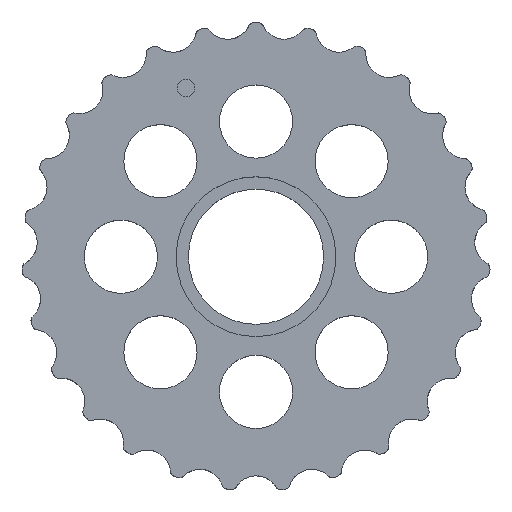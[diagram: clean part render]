
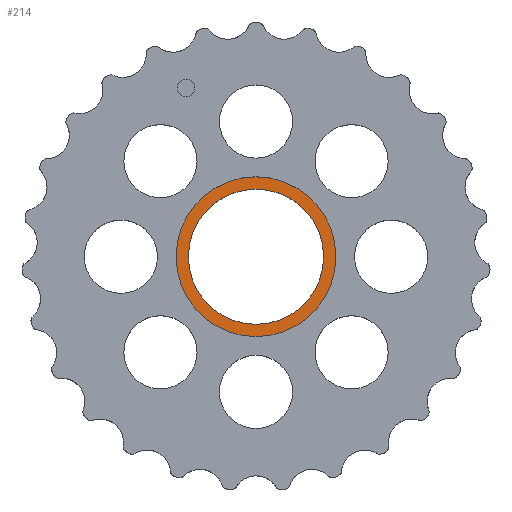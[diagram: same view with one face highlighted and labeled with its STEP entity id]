
A CAD part, top view. The second image highlights one B-rep face of the part: STEP entity #214.
In plain terms, the highlighted planar face has unit normal (0, 0, 1).
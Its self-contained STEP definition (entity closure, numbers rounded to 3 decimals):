
#25 = ORIENTED_EDGE ( 'NONE', *, *, #3132, .F. ) ;
#135 = CARTESIAN_POINT ( 'NONE',  ( 1.344, -27.649, 4.45 ) ) ;
#214 = ADVANCED_FACE ( 'NONE', ( #1508, #956 ), #1575, .T. ) ;
#415 = DIRECTION ( 'NONE',  ( 0., 0., 1. ) ) ;
#487 = VERTEX_POINT ( 'NONE', #1843 ) ;
#692 = DIRECTION ( 'NONE',  ( 1., 0., 0. ) ) ;
#711 = CIRCLE ( 'NONE', #3518, 13.6 ) ;
#730 = CARTESIAN_POINT ( 'NONE',  ( 14.944, -27.649, 4.45 ) ) ;
#777 = DIRECTION ( 'NONE',  ( 1., 0., 0. ) ) ;
#956 = FACE_OUTER_BOUND ( 'NONE', #1133, .T. ) ;
#1000 = CIRCLE ( 'NONE', #1799, 11.5 ) ;
#1067 = VERTEX_POINT ( 'NONE', #3419 ) ;
#1133 = EDGE_LOOP ( 'NONE', ( #3811, #2019 ) ) ;
#1257 = AXIS2_PLACEMENT_3D ( 'NONE', #3870, #1737, #3824 ) ;
#1508 = FACE_BOUND ( 'NONE', #2161, .T. ) ;
#1575 = PLANE ( 'NONE',  #2453 ) ;
#1584 = DIRECTION ( 'NONE',  ( 1., 0., 0. ) ) ;
#1737 = DIRECTION ( 'NONE',  ( 0., 0., 1. ) ) ;
#1750 = ORIENTED_EDGE ( 'NONE', *, *, #2975, .F. ) ;
#1799 = AXIS2_PLACEMENT_3D ( 'NONE', #3941, #2426, #2752 ) ;
#1843 = CARTESIAN_POINT ( 'NONE',  ( -12.256, -27.649, 4.45 ) ) ;
#2019 = ORIENTED_EDGE ( 'NONE', *, *, #3359, .T. ) ;
#2161 = EDGE_LOOP ( 'NONE', ( #1750, #25 ) ) ;
#2294 = AXIS2_PLACEMENT_3D ( 'NONE', #135, #415, #692 ) ;
#2323 = CARTESIAN_POINT ( 'NONE',  ( 1.344, -27.649, 4.45 ) ) ;
#2395 = VERTEX_POINT ( 'NONE', #730 ) ;
#2426 = DIRECTION ( 'NONE',  ( 0., 0., 1. ) ) ;
#2453 = AXIS2_PLACEMENT_3D ( 'NONE', #2827, #2517, #1584 ) ;
#2517 = DIRECTION ( 'NONE',  ( 0., 0., 1. ) ) ;
#2752 = DIRECTION ( 'NONE',  ( 1., 0., 0. ) ) ;
#2827 = CARTESIAN_POINT ( 'NONE',  ( 0., 0., 4.45 ) ) ;
#2975 = EDGE_CURVE ( 'NONE', #1067, #3059, #3084, .T. ) ;
#3059 = VERTEX_POINT ( 'NONE', #3261 ) ;
#3084 = CIRCLE ( 'NONE', #2294, 11.5 ) ;
#3132 = EDGE_CURVE ( 'NONE', #3059, #1067, #1000, .T. ) ;
#3261 = CARTESIAN_POINT ( 'NONE',  ( -10.156, -27.649, 4.45 ) ) ;
#3281 = DIRECTION ( 'NONE',  ( 0., 0., 1. ) ) ;
#3359 = EDGE_CURVE ( 'NONE', #487, #2395, #3695, .T. ) ;
#3392 = EDGE_CURVE ( 'NONE', #2395, #487, #711, .T. ) ;
#3419 = CARTESIAN_POINT ( 'NONE',  ( 12.844, -27.649, 4.45 ) ) ;
#3518 = AXIS2_PLACEMENT_3D ( 'NONE', #2323, #3281, #777 ) ;
#3695 = CIRCLE ( 'NONE', #1257, 13.6 ) ;
#3811 = ORIENTED_EDGE ( 'NONE', *, *, #3392, .T. ) ;
#3824 = DIRECTION ( 'NONE',  ( 1., 0., 0. ) ) ;
#3870 = CARTESIAN_POINT ( 'NONE',  ( 1.344, -27.649, 4.45 ) ) ;
#3941 = CARTESIAN_POINT ( 'NONE',  ( 1.344, -27.649, 4.45 ) ) ;
